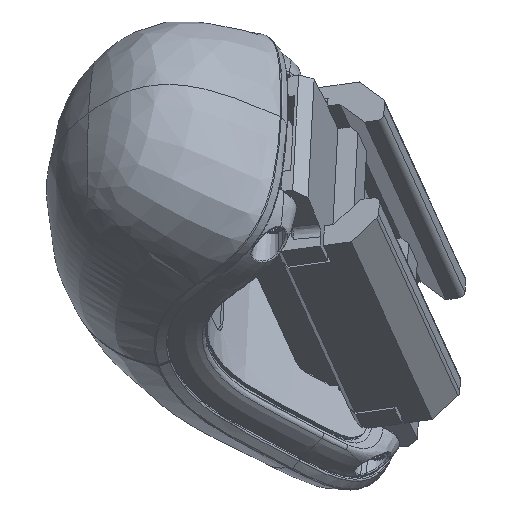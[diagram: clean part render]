
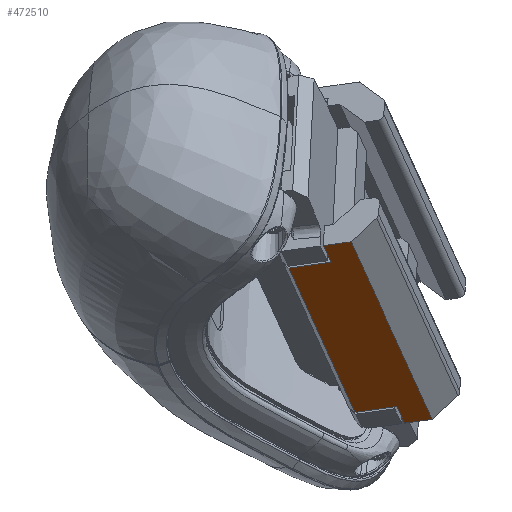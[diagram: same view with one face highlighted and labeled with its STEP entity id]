
A CAD part, front view. The second image highlights one B-rep face of the part: STEP entity #472510.
In plain terms, the highlighted planar face has unit normal (-0.041, -0.606, -0.794) as drawn and (0, 0, -1) by its records, which use the part's own axes.
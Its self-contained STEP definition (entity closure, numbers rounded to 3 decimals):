
#459960=CARTESIAN_POINT('',(119.2,151.3,-15.8));
#459970=VERTEX_POINT('',#459960);
#460000=CARTESIAN_POINT('',(0.,151.3,-15.8));
#460010=DIRECTION('',(-1.,0.,0.));
#460020=VECTOR('',#460010,1.);
#460030=LINE('',#460000,#460020);
#460040=CARTESIAN_POINT('',(123.7,151.3,-15.8));
#460050=VERTEX_POINT('',#460040);
#460060=EDGE_CURVE('',#460050,#459970,#460030,.T.);
#461000=CARTESIAN_POINT('',(75.7,146.682,-15.8));
#461010=VERTEX_POINT('',#461000);
#461040=CARTESIAN_POINT('',(75.7,1.5,-15.8));
#461050=DIRECTION('',(0.,1.,0.));
#461060=VECTOR('',#461050,1.);
#461070=LINE('',#461040,#461060);
#461080=CARTESIAN_POINT('',(75.7,151.3,-15.8));
#461090=VERTEX_POINT('',#461080);
#461100=EDGE_CURVE('',#461010,#461090,#461070,.T.);
#471980=CARTESIAN_POINT('',(124.7,173.3,-15.8));
#471990=DIRECTION('',(0.,0.,-1.));
#472000=DIRECTION('',(-1.,0.,0.));
#472010=AXIS2_PLACEMENT_3D('',#471980,#471990,#472000);
#472020=PLANE('',#472010);
#472030=CARTESIAN_POINT('',(0.,151.3,-15.8));
#472040=DIRECTION('',(-1.,0.,0.));
#472050=VECTOR('',#472040,1.);
#472060=LINE('',#472030,#472050);
#472070=CARTESIAN_POINT('',(80.2,151.3,-15.8));
#472080=VERTEX_POINT('',#472070);
#472090=EDGE_CURVE('',#472080,#461090,#472060,.T.);
#472100=ORIENTED_EDGE('',*,*,#472090,.F.);
#472110=ORIENTED_EDGE('',*,*,#461100,.T.);
#472120=CARTESIAN_POINT('',(0.,146.682,-15.8));
#472130=DIRECTION('',(1.,0.,0.));
#472140=VECTOR('',#472130,1.);
#472150=LINE('',#472120,#472140);
#472160=CARTESIAN_POINT('',(123.7,146.682,-15.8));
#472170=VERTEX_POINT('',#472160);
#472180=EDGE_CURVE('',#461010,#472170,#472150,.T.);
#472190=ORIENTED_EDGE('',*,*,#472180,.F.);
#472200=CARTESIAN_POINT('',(123.7,1.5,-15.8));
#472210=DIRECTION('',(0.,1.,0.));
#472220=VECTOR('',#472210,1.);
#472230=LINE('',#472200,#472220);
#472240=EDGE_CURVE('',#472170,#460050,#472230,.T.);
#472250=ORIENTED_EDGE('',*,*,#472240,.F.);
#472260=ORIENTED_EDGE('',*,*,#460060,.F.);
#472270=CARTESIAN_POINT('',(119.2,0.,-15.8));
#472280=DIRECTION('',(0.,1.,0.));
#472290=VECTOR('',#472280,1.);
#472300=LINE('',#472270,#472290);
#472310=CARTESIAN_POINT('',(119.2,158.277,-15.8));
#472320=VERTEX_POINT('',#472310);
#472330=EDGE_CURVE('',#459970,#472320,#472300,.T.);
#472340=ORIENTED_EDGE('',*,*,#472330,.F.);
#472350=CARTESIAN_POINT('',(99.7,158.277,-15.8));
#472360=DIRECTION('',(-1.,0.,0.));
#472370=VECTOR('',#472360,1.);
#472380=LINE('',#472350,#472370);
#472390=CARTESIAN_POINT('',(80.2,158.277,-15.8));
#472400=VERTEX_POINT('',#472390);
#472410=EDGE_CURVE('',#472320,#472400,#472380,.T.);
#472420=ORIENTED_EDGE('',*,*,#472410,.F.);
#472430=CARTESIAN_POINT('',(80.2,0.,-15.8));
#472440=DIRECTION('',(0.,-1.,0.));
#472450=VECTOR('',#472440,1.);
#472460=LINE('',#472430,#472450);
#472470=EDGE_CURVE('',#472400,#472080,#472460,.T.);
#472480=ORIENTED_EDGE('',*,*,#472470,.F.);
#472490=EDGE_LOOP('',(#472480,#472420,#472340,#472260,#472250,#472190,
#472110,#472100));
#472500=FACE_OUTER_BOUND('',#472490,.T.);
#472510=ADVANCED_FACE('',(#472500),#472020,.T.);
